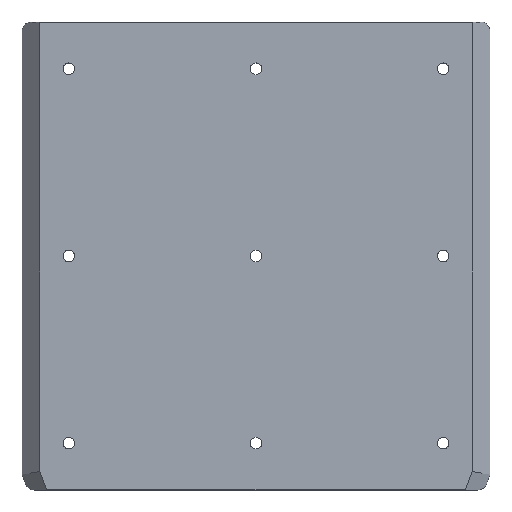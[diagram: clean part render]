
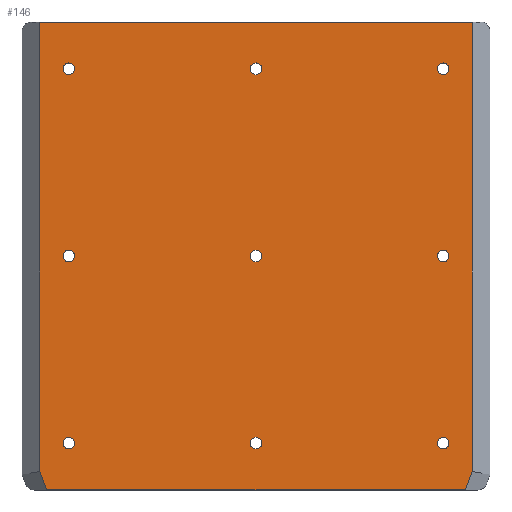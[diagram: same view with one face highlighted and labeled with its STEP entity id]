
A CAD part, top view. The second image highlights one B-rep face of the part: STEP entity #146.
In plain terms, the highlighted planar face has unit normal (0, 0, 1).
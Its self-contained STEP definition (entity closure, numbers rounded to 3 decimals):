
#146=ADVANCED_FACE('',(#338,#339,#340,#341,#342,#343,#344,#345,#346,#347),#348,.F.);
#338=FACE_BOUND('',#567,.T.);
#339=FACE_BOUND('',#568,.T.);
#340=FACE_BOUND('',#569,.T.);
#341=FACE_BOUND('',#570,.T.);
#342=FACE_BOUND('',#571,.T.);
#343=FACE_BOUND('',#572,.T.);
#344=FACE_BOUND('',#573,.T.);
#345=FACE_BOUND('',#574,.T.);
#346=FACE_BOUND('',#575,.T.);
#347=FACE_OUTER_BOUND('',#576,.T.);
#348=PLANE('',#577);
#567=EDGE_LOOP('',(#908));
#568=EDGE_LOOP('',(#909));
#569=EDGE_LOOP('',(#910));
#570=EDGE_LOOP('',(#911));
#571=EDGE_LOOP('',(#912));
#572=EDGE_LOOP('',(#913));
#573=EDGE_LOOP('',(#914));
#574=EDGE_LOOP('',(#915));
#575=EDGE_LOOP('',(#916));
#576=EDGE_LOOP('',(#917,#918,#919,#920,#921,#922));
#577=AXIS2_PLACEMENT_3D('',#923,#924,#925);
#908=ORIENTED_EDGE('',*,*,#1165,.T.);
#909=ORIENTED_EDGE('',*,*,#1168,.T.);
#910=ORIENTED_EDGE('',*,*,#1171,.T.);
#911=ORIENTED_EDGE('',*,*,#1156,.T.);
#912=ORIENTED_EDGE('',*,*,#1159,.T.);
#913=ORIENTED_EDGE('',*,*,#1162,.T.);
#914=ORIENTED_EDGE('',*,*,#1148,.T.);
#915=ORIENTED_EDGE('',*,*,#1150,.T.);
#916=ORIENTED_EDGE('',*,*,#1153,.T.);
#917=ORIENTED_EDGE('',*,*,#1136,.T.);
#918=ORIENTED_EDGE('',*,*,#1087,.T.);
#919=ORIENTED_EDGE('',*,*,#1131,.T.);
#920=ORIENTED_EDGE('',*,*,#1195,.T.);
#921=ORIENTED_EDGE('',*,*,#1082,.T.);
#922=ORIENTED_EDGE('',*,*,#1196,.T.);
#923=CARTESIAN_POINT('',(0.0,250.0,10.0));
#924=DIRECTION('',(0.0,0.0,-1.0));
#925=DIRECTION('',(-1.0,0.0,0.0));
#1082=EDGE_CURVE('',#1233,#1237,#1239,.T.);
#1087=EDGE_CURVE('',#1242,#1246,#1248,.T.);
#1131=EDGE_CURVE('',#1246,#1324,#1325,.T.);
#1136=EDGE_CURVE('',#1332,#1242,#1333,.T.);
#1148=EDGE_CURVE('',#1347,#1347,#1348,.T.);
#1150=EDGE_CURVE('',#1350,#1350,#1351,.T.);
#1153=EDGE_CURVE('',#1355,#1355,#1356,.T.);
#1156=EDGE_CURVE('',#1360,#1360,#1361,.T.);
#1159=EDGE_CURVE('',#1365,#1365,#1366,.T.);
#1162=EDGE_CURVE('',#1370,#1370,#1371,.T.);
#1165=EDGE_CURVE('',#1375,#1375,#1376,.T.);
#1168=EDGE_CURVE('',#1380,#1380,#1381,.T.);
#1171=EDGE_CURVE('',#1385,#1385,#1386,.T.);
#1195=EDGE_CURVE('',#1324,#1233,#1420,.T.);
#1196=EDGE_CURVE('',#1237,#1332,#1421,.T.);
#1233=VERTEX_POINT('',#1465);
#1237=VERTEX_POINT('',#1471);
#1239=LINE('',#1474,#1475);
#1242=VERTEX_POINT('',#1478);
#1246=VERTEX_POINT('',#1484);
#1248=LINE('',#1487,#1488);
#1324=VERTEX_POINT('',#1581);
#1325=LINE('',#1582,#1583);
#1332=VERTEX_POINT('',#1592);
#1333=LINE('',#1593,#1594);
#1347=VERTEX_POINT('',#1612);
#1348=CIRCLE('',#1613,3.1);
#1350=VERTEX_POINT('',#1615);
#1351=CIRCLE('',#1616,3.1);
#1355=VERTEX_POINT('',#1620);
#1356=CIRCLE('',#1621,3.1);
#1360=VERTEX_POINT('',#1625);
#1361=CIRCLE('',#1626,3.1);
#1365=VERTEX_POINT('',#1630);
#1366=CIRCLE('',#1631,3.1);
#1370=VERTEX_POINT('',#1635);
#1371=CIRCLE('',#1636,3.1);
#1375=VERTEX_POINT('',#1640);
#1376=CIRCLE('',#1641,3.1);
#1380=VERTEX_POINT('',#1645);
#1381=CIRCLE('',#1646,3.1);
#1385=VERTEX_POINT('',#1650);
#1386=CIRCLE('',#1651,3.1);
#1420=LINE('',#1685,#1686);
#1421=LINE('',#1687,#1688);
#1465=CARTESIAN_POINT('',(240.5,249.75,10.0));
#1471=CARTESIAN_POINT('',(9.5,249.75,10.0));
#1474=CARTESIAN_POINT('',(0.0,249.75,10.0));
#1475=VECTOR('',#1738,1.0);
#1478=CARTESIAN_POINT('',(13.167,0.25,10.0));
#1484=CARTESIAN_POINT('',(236.833,0.25,10.0));
#1487=CARTESIAN_POINT('',(0.0,0.25,10.0));
#1488=VECTOR('',#1742,1.0);
#1581=CARTESIAN_POINT('',(240.5,9.904,10.0));
#1582=CARTESIAN_POINT('',(289.876,139.887,10.0));
#1583=VECTOR('',#1817,1.0);
#1592=CARTESIAN_POINT('',(9.5,9.904,10.0));
#1593=CARTESIAN_POINT('',(-71.401,222.877,10.0));
#1594=VECTOR('',#1823,1.0);
#1612=CARTESIAN_POINT('',(221.9,25.0,10.0));
#1613=AXIS2_PLACEMENT_3D('',#1840,#1841,#1842);
#1615=CARTESIAN_POINT('',(121.9,25.0,10.0));
#1616=AXIS2_PLACEMENT_3D('',#1843,#1844,#1845);
#1620=CARTESIAN_POINT('',(21.9,25.0,10.0));
#1621=AXIS2_PLACEMENT_3D('',#1849,#1850,#1851);
#1625=CARTESIAN_POINT('',(21.9,125.0,10.0));
#1626=AXIS2_PLACEMENT_3D('',#1855,#1856,#1857);
#1630=CARTESIAN_POINT('',(121.9,125.0,10.0));
#1631=AXIS2_PLACEMENT_3D('',#1861,#1862,#1863);
#1635=CARTESIAN_POINT('',(221.9,125.0,10.0));
#1636=AXIS2_PLACEMENT_3D('',#1867,#1868,#1869);
#1640=CARTESIAN_POINT('',(221.9,225.0,10.0));
#1641=AXIS2_PLACEMENT_3D('',#1873,#1874,#1875);
#1645=CARTESIAN_POINT('',(121.9,225.0,10.0));
#1646=AXIS2_PLACEMENT_3D('',#1879,#1880,#1881);
#1650=CARTESIAN_POINT('',(21.9,225.0,10.0));
#1651=AXIS2_PLACEMENT_3D('',#1885,#1886,#1887);
#1685=CARTESIAN_POINT('',(240.5,250.0,10.0));
#1686=VECTOR('',#1918,1.0);
#1687=CARTESIAN_POINT('',(9.5,250.0,10.0));
#1688=VECTOR('',#1919,1.0);
#1738=DIRECTION('',(-1.0,0.0,0.0));
#1742=DIRECTION('',(1.0,0.0,0.0));
#1817=DIRECTION('',(0.355,0.935,0.0));
#1823=DIRECTION('',(0.355,-0.935,0.0));
#1840=CARTESIAN_POINT('',(225.0,25.0,10.0));
#1841=DIRECTION('',(0.0,0.0,-1.0));
#1842=DIRECTION('',(-1.0,0.0,0.0));
#1843=CARTESIAN_POINT('',(125.0,25.0,10.0));
#1844=DIRECTION('',(0.0,0.0,-1.0));
#1845=DIRECTION('',(-1.0,0.0,0.0));
#1849=CARTESIAN_POINT('',(25.0,25.0,10.0));
#1850=DIRECTION('',(0.0,0.0,-1.0));
#1851=DIRECTION('',(-1.0,0.0,0.0));
#1855=CARTESIAN_POINT('',(25.0,125.0,10.0));
#1856=DIRECTION('',(0.0,0.0,-1.0));
#1857=DIRECTION('',(-1.0,0.0,0.0));
#1861=CARTESIAN_POINT('',(125.0,125.0,10.0));
#1862=DIRECTION('',(0.0,0.0,-1.0));
#1863=DIRECTION('',(-1.0,0.0,0.0));
#1867=CARTESIAN_POINT('',(225.0,125.0,10.0));
#1868=DIRECTION('',(0.0,0.0,-1.0));
#1869=DIRECTION('',(-1.0,0.0,0.0));
#1873=CARTESIAN_POINT('',(225.0,225.0,10.0));
#1874=DIRECTION('',(0.0,0.0,-1.0));
#1875=DIRECTION('',(-1.0,0.0,0.0));
#1879=CARTESIAN_POINT('',(125.0,225.0,10.0));
#1880=DIRECTION('',(0.0,0.0,-1.0));
#1881=DIRECTION('',(-1.0,0.0,0.0));
#1885=CARTESIAN_POINT('',(25.0,225.0,10.0));
#1886=DIRECTION('',(0.0,0.0,-1.0));
#1887=DIRECTION('',(-1.0,0.0,0.0));
#1918=DIRECTION('',(0.0,1.0,0.0));
#1919=DIRECTION('',(0.0,-1.0,0.0));
